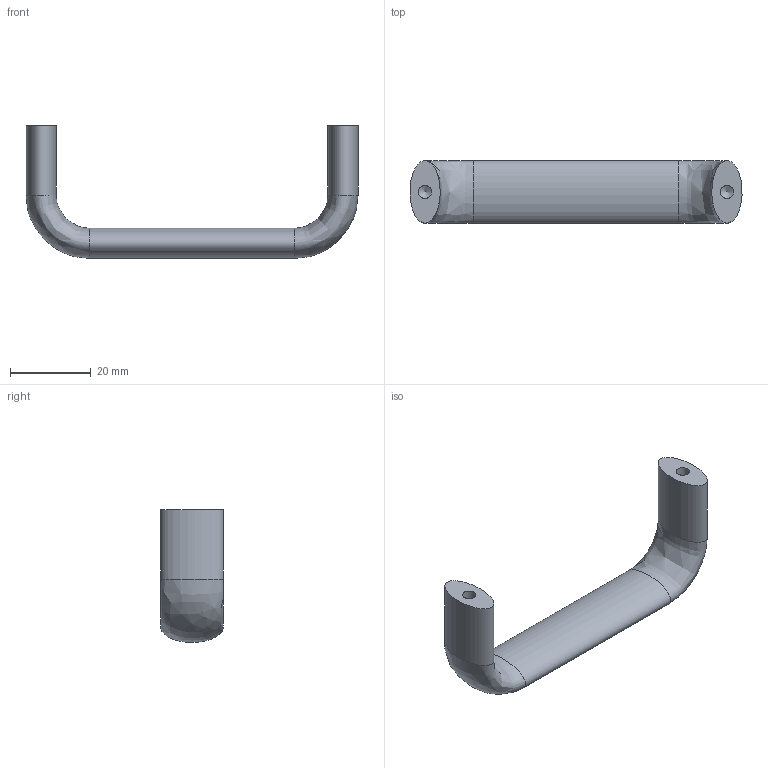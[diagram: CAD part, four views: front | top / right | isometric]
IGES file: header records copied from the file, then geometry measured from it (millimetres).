
Global section: file name: DR_A-GA15-75; native system: Autodesk Inventor 2015; preprocessor: unknown; author: user; date: 20170711.085612; units: millimetre
Bounding box: 82.46 x 15.5 x 32.98 mm (x, y, z)
Volume: 11007.4 mm3; surface area: 4943.2 mm2
Topology: 1 solids, 1 shells, 11 faces, 25 edges, 16 vertices
Faces by surface type: bspline 11
